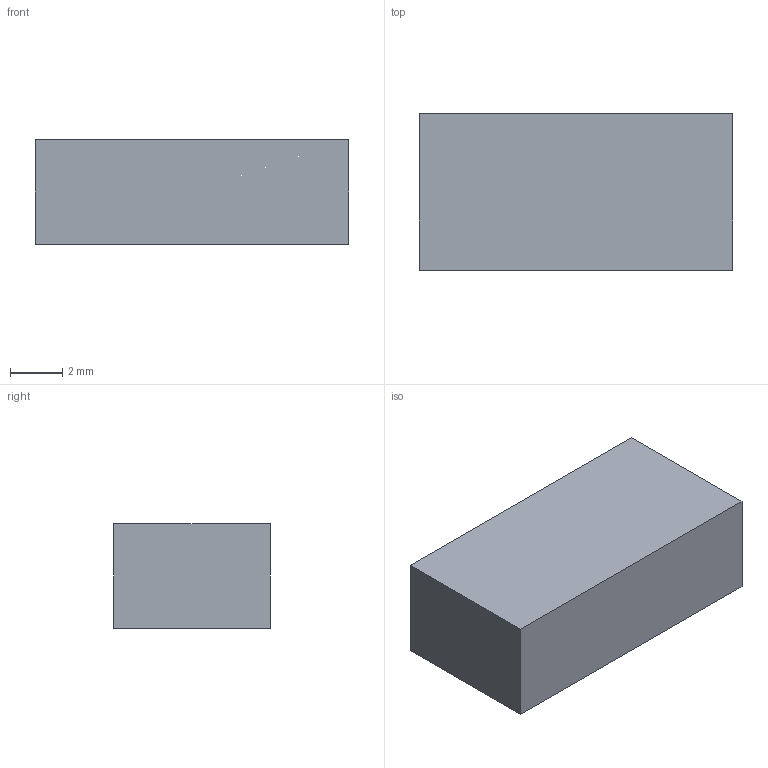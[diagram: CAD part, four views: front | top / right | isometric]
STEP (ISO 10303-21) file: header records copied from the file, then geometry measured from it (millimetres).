
FILE_DESCRIPTION(('Open CASCADE Model'),'2;1');
FILE_NAME('Open CASCADE Shape Model','2026-10-04T01:02:34',('Author'),( 'Open CASCADE'),'Open CASCADE STEP processor 8.0','Open CASCADE 8.0' ,'Unknown');
FILE_SCHEMA(('AUTOMOTIVE_DESIGN { 1 0 10303 214 1 1 1 1 }'));
Length unit declared in the file: millimetre
Products named in the file (1): Open CASCADE STEP translator 8.0 384
Bounding box: 12 x 6 x 4 mm (x, y, z)
Volume: 288 mm3; surface area: 288 mm2
Topology: 1 solids, 1 shells, 6 faces, 12 edges, 8 vertices
Faces by surface type: plane 6
Entity records: 322 total; most frequent: CARTESIAN_POINT 51, DIRECTION 50, LINE 36, VECTOR 36, ORIENTED_EDGE 24, PCURVE 24, DEFINITIONAL_REPRESENTATION 24, EDGE_CURVE 12
